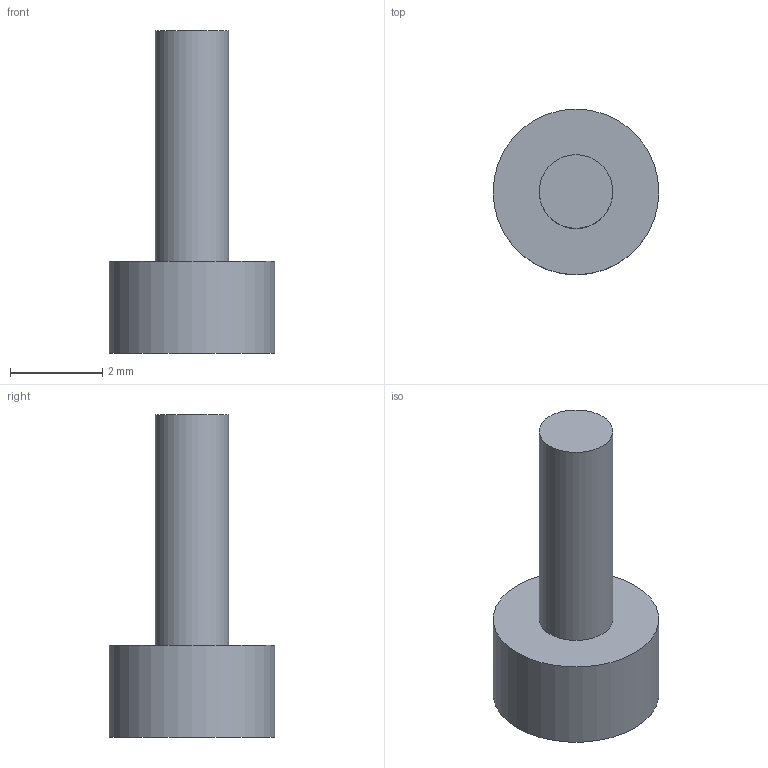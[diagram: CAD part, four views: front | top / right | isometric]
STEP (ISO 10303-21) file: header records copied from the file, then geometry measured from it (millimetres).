
FILE_DESCRIPTION(('Open CASCADE Model'),'2;1');
FILE_NAME('Open CASCADE Shape Model','2026-09-24T19:52:59',('Author'),( 'Open CASCADE'),'Open CASCADE STEP processor 7.8','Open CASCADE 7.8' ,'Unknown');
FILE_SCHEMA(('AUTOMOTIVE_DESIGN { 1 0 10303 214 1 1 1 1 }'));
Length unit declared in the file: millimetre
Products named in the file (1): Open CASCADE STEP translator 7.8 74
Bounding box: 3.6 x 3.6 x 7 mm (x, y, z)
Volume: 30.4 mm3; surface area: 68.1 mm2
Topology: 1 solids, 1 shells, 5 faces, 6 edges, 4 vertices
Faces by surface type: plane 3, cylinder 2
Full cylindrical faces by diameter (mm): 1.6 x1, 3.6 x1
Entity records: 192 total; most frequent: DIRECTION 34, CARTESIAN_POINT 28, ORIENTED_EDGE 12, PCURVE 12, DEFINITIONAL_REPRESENTATION 12, AXIS2_PLACEMENT_3D 10, LINE 10, VECTOR 10
